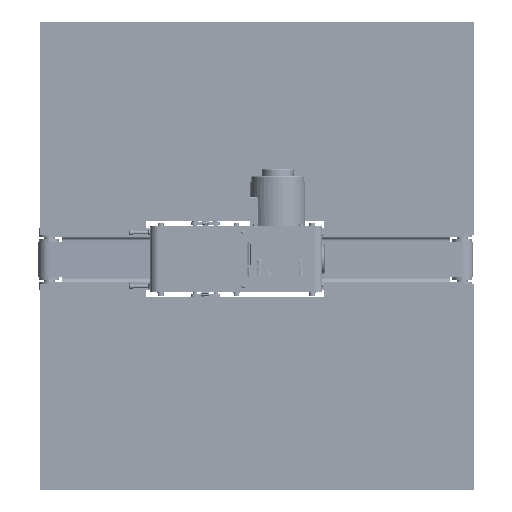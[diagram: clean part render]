
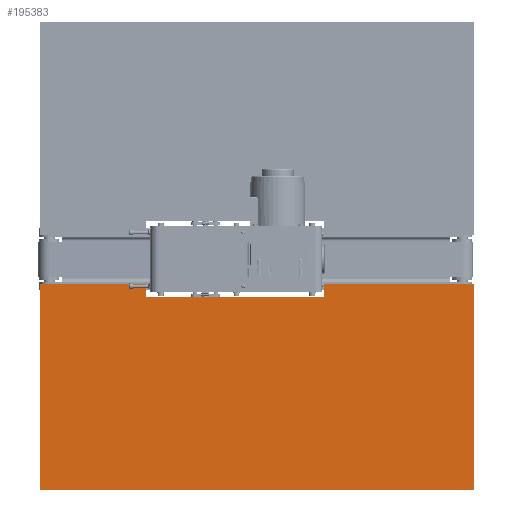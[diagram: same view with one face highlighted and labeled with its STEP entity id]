
A CAD part, front view. The second image highlights one B-rep face of the part: STEP entity #195383.
In plain terms, the highlighted planar face has unit normal (0, -1, 0) as drawn and (0, 0, 1) by its records, which use the part's own axes.
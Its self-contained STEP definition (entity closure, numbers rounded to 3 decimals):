
#17326=FACE_OUTER_BOUND('',#28282,.T.);
#28282=EDGE_LOOP('',(#133858,#133859,#133860,#133861,#133862,#133863,#133864,
#133865));
#42049=LINE('',#275140,#60572);
#42052=LINE('',#275146,#60575);
#42055=LINE('',#275152,#60578);
#42058=LINE('',#275158,#60581);
#42061=LINE('',#275164,#60584);
#42064=LINE('',#275170,#60587);
#42067=LINE('',#275176,#60590);
#42070=LINE('',#275180,#60593);
#60572=VECTOR('',#226683,10.);
#60575=VECTOR('',#226688,10.);
#60578=VECTOR('',#226693,10.);
#60581=VECTOR('',#226698,10.);
#60584=VECTOR('',#226703,10.);
#60587=VECTOR('',#226708,10.);
#60590=VECTOR('',#226713,10.);
#60593=VECTOR('',#226718,10.);
#79065=VERTEX_POINT('',#275137);
#79066=VERTEX_POINT('',#275139);
#79068=VERTEX_POINT('',#275145);
#79070=VERTEX_POINT('',#275151);
#79072=VERTEX_POINT('',#275157);
#79074=VERTEX_POINT('',#275163);
#79076=VERTEX_POINT('',#275169);
#79078=VERTEX_POINT('',#275175);
#100282=EDGE_CURVE('',#79066,#79065,#42049,.T.);
#100285=EDGE_CURVE('',#79068,#79066,#42052,.T.);
#100288=EDGE_CURVE('',#79070,#79068,#42055,.T.);
#100291=EDGE_CURVE('',#79072,#79070,#42058,.T.);
#100294=EDGE_CURVE('',#79074,#79072,#42061,.T.);
#100297=EDGE_CURVE('',#79076,#79074,#42064,.T.);
#100300=EDGE_CURVE('',#79078,#79076,#42067,.T.);
#100303=EDGE_CURVE('',#79065,#79078,#42070,.T.);
#133858=ORIENTED_EDGE('',*,*,#100303,.T.);
#133859=ORIENTED_EDGE('',*,*,#100300,.T.);
#133860=ORIENTED_EDGE('',*,*,#100297,.T.);
#133861=ORIENTED_EDGE('',*,*,#100294,.T.);
#133862=ORIENTED_EDGE('',*,*,#100291,.T.);
#133863=ORIENTED_EDGE('',*,*,#100288,.T.);
#133864=ORIENTED_EDGE('',*,*,#100285,.T.);
#133865=ORIENTED_EDGE('',*,*,#100282,.T.);
#188969=PLANE('',#207880);
#195383=ADVANCED_FACE('',(#17326),#188969,.T.);
#207880=AXIS2_PLACEMENT_3D('',#275181,#226719,#226720);
#226683=DIRECTION('',(1.,0.,0.));
#226688=DIRECTION('',(0.,-1.,0.));
#226693=DIRECTION('',(-1.,0.,0.));
#226698=DIRECTION('',(0.,1.,0.));
#226703=DIRECTION('',(-1.,0.,0.));
#226708=DIRECTION('',(0.,-1.,0.));
#226713=DIRECTION('',(-1.,0.,0.));
#226718=DIRECTION('',(0.,1.,0.));
#226719=DIRECTION('center_axis',(0.,0.,1.));
#226720=DIRECTION('ref_axis',(1.,0.,0.));
#275137=CARTESIAN_POINT('',(34.759,-302.543,10.));
#275139=CARTESIAN_POINT('',(-595.241,-302.543,10.));
#275140=CARTESIAN_POINT('',(-595.241,-302.543,10.));
#275145=CARTESIAN_POINT('',(-595.241,-3.831,10.));
#275146=CARTESIAN_POINT('',(-595.241,377.457,10.));
#275151=CARTESIAN_POINT('',(-442.1,-3.831,10.));
#275152=CARTESIAN_POINT('',(-442.1,-3.831,10.));
#275157=CARTESIAN_POINT('',(-442.1,-21.783,10.));
#275158=CARTESIAN_POINT('',(-442.1,-21.783,10.));
#275163=CARTESIAN_POINT('',(-182.1,-21.783,10.));
#275164=CARTESIAN_POINT('',(-182.1,-21.783,10.));
#275169=CARTESIAN_POINT('',(-182.1,-3.831,10.));
#275170=CARTESIAN_POINT('',(-182.1,88.217,10.));
#275175=CARTESIAN_POINT('',(34.759,-3.831,10.));
#275176=CARTESIAN_POINT('',(34.759,-3.831,10.));
#275180=CARTESIAN_POINT('',(34.759,-302.543,10.));
#275181=CARTESIAN_POINT('Origin',(-280.241,-153.187,10.));
